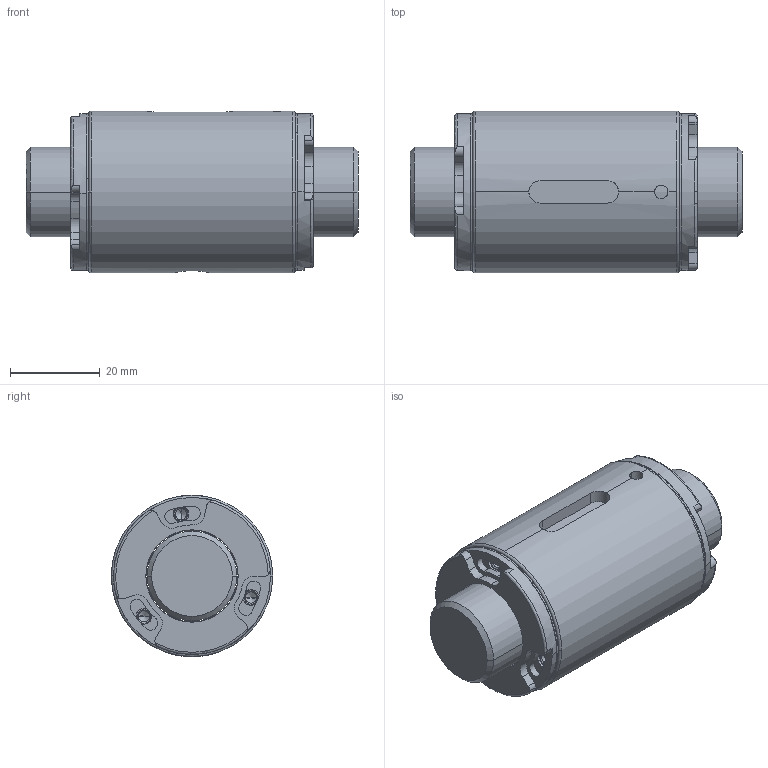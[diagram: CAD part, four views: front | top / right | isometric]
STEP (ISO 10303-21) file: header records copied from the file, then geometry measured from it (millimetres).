
FILE_DESCRIPTION (( 'STEP AP203' ), '1' );
FILE_NAME ('SCHR02020A1-C.STEP', '2020-06-17T08:49:06', ( '' ), ( '' ), 'SwSTEP 2.0', 'SolidWorks 2013', '' );
FILE_SCHEMA (( 'CONFIG_CONTROL_DESIGN' ));
Length unit declared in the file: millimetre
Products named in the file (1): SCHR02020A1-C
Bounding box: 74 x 36 x 36 mm (x, y, z)
Volume: 56344.3 mm3; surface area: 17164.1 mm2
Topology: 2 solids, 2 shells, 223 faces, 576 edges, 364 vertices
Faces by surface type: cylinder 119, plane 64, cone 28, torus 12
Entity records: 7411 total; most frequent: CARTESIAN_POINT 1718, DIRECTION 1302, ORIENTED_EDGE 1128, EDGE_CURVE 564, AXIS2_PLACEMENT_3D 552, VERTEX_POINT 364, CIRCLE 328, EDGE_LOOP 246
